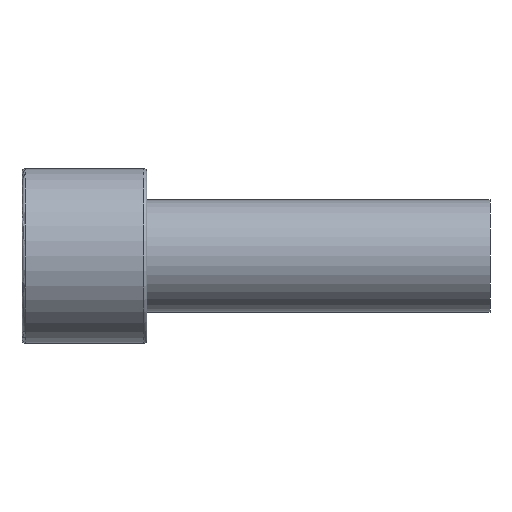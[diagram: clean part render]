
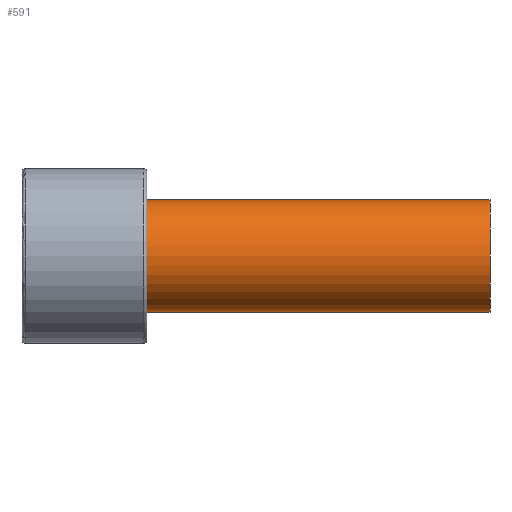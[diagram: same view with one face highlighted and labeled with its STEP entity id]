
A CAD part, front view. The second image highlights one B-rep face of the part: STEP entity #591.
In plain terms, the highlighted cylindrical face has radius 9 mm (diameter 18 mm), a partial arc.
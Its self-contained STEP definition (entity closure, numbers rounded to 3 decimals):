
#425=CARTESIAN_POINT('Vertex',(75.,0.,9.)) ;
#428=CARTESIAN_POINT('Axis2P3D Location',(75.,0.,0.)) ;
#432=CARTESIAN_POINT('Vertex',(75.,-9.,0.)) ;
#435=CARTESIAN_POINT('Axis2P3D Location',(75.,0.,0.)) ;
#439=CARTESIAN_POINT('Vertex',(75.,0.,-9.)) ;
#531=CARTESIAN_POINT('Line Origine',(75.,0.,9.)) ;
#535=CARTESIAN_POINT('Vertex',(20.,0.,9.)) ;
#538=CARTESIAN_POINT('Line Origine',(75.,0.,-9.)) ;
#542=CARTESIAN_POINT('Vertex',(20.,0.,-9.)) ;
#566=CARTESIAN_POINT('Axis2P3D Location',(75.,0.,0.)) ;
#571=CARTESIAN_POINT('Axis2P3D Location',(20.,0.,0.)) ;
#575=CARTESIAN_POINT('Vertex',(20.,-9.,0.)) ;
#578=CARTESIAN_POINT('Axis2P3D Location',(20.,0.,0.)) ;
#429=DIRECTION('Axis2P3D Direction',(1.,0.,-0.)) ;
#436=DIRECTION('Axis2P3D Direction',(1.,0.,-0.)) ;
#532=DIRECTION('Vector Direction',(-1.,0.,0.)) ;
#539=DIRECTION('Vector Direction',(-1.,0.,0.)) ;
#567=DIRECTION('Axis2P3D Direction',(-1.,-0.,-0.)) ;
#568=DIRECTION('Axis2P3D XDirection',(0.,0.,-1.)) ;
#572=DIRECTION('Axis2P3D Direction',(-1.,-0.,-0.)) ;
#579=DIRECTION('Axis2P3D Direction',(-1.,-0.,-0.)) ;
#430=AXIS2_PLACEMENT_3D('Circle Axis2P3D',#428,#429,$) ;
#437=AXIS2_PLACEMENT_3D('Circle Axis2P3D',#435,#436,$) ;
#569=AXIS2_PLACEMENT_3D('Cylinder Axis2P3D',#566,#567,#568) ;
#573=AXIS2_PLACEMENT_3D('Circle Axis2P3D',#571,#572,$) ;
#580=AXIS2_PLACEMENT_3D('Circle Axis2P3D',#578,#579,$) ;
#584=ORIENTED_EDGE('',*,*,#544,.T.) ;
#585=ORIENTED_EDGE('',*,*,#441,.F.) ;
#586=ORIENTED_EDGE('',*,*,#434,.F.) ;
#587=ORIENTED_EDGE('',*,*,#537,.T.) ;
#588=ORIENTED_EDGE('',*,*,#577,.T.) ;
#589=ORIENTED_EDGE('',*,*,#582,.T.) ;
#533=VECTOR('Line Direction',#532,1.) ;
#540=VECTOR('Line Direction',#539,1.) ;
#591=ADVANCED_FACE('367-18X75',(#590),#570,.T.) ;
#431=CIRCLE('generated circle',#430,9.) ;
#438=CIRCLE('generated circle',#437,9.) ;
#574=CIRCLE('generated circle',#573,9.) ;
#581=CIRCLE('generated circle',#580,9.) ;
#570=CYLINDRICAL_SURFACE('generated cylinder',#569,9.) ;
#434=EDGE_CURVE('',#426,#433,#431,.T.) ;
#441=EDGE_CURVE('',#433,#440,#438,.T.) ;
#537=EDGE_CURVE('',#426,#536,#534,.T.) ;
#544=EDGE_CURVE('',#543,#440,#541,.F.) ;
#577=EDGE_CURVE('',#536,#576,#574,.F.) ;
#582=EDGE_CURVE('',#576,#543,#581,.F.) ;
#583=EDGE_LOOP('',(#584,#585,#586,#587,#588,#589)) ;
#590=FACE_OUTER_BOUND('',#583,.T.) ;
#534=LINE('Line',#531,#533) ;
#541=LINE('Line',#538,#540) ;
#426=VERTEX_POINT('',#425) ;
#433=VERTEX_POINT('',#432) ;
#440=VERTEX_POINT('',#439) ;
#536=VERTEX_POINT('',#535) ;
#543=VERTEX_POINT('',#542) ;
#576=VERTEX_POINT('',#575) ;
